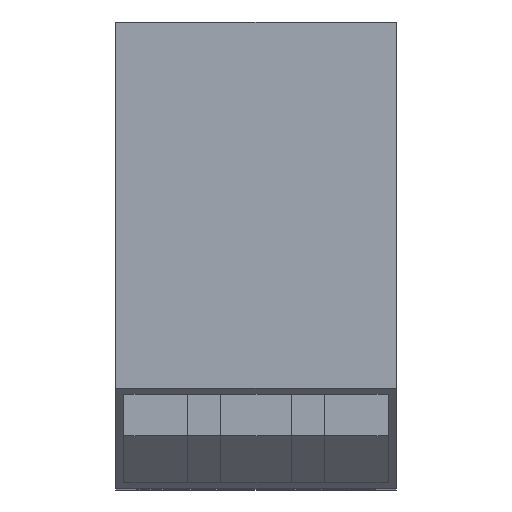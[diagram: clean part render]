
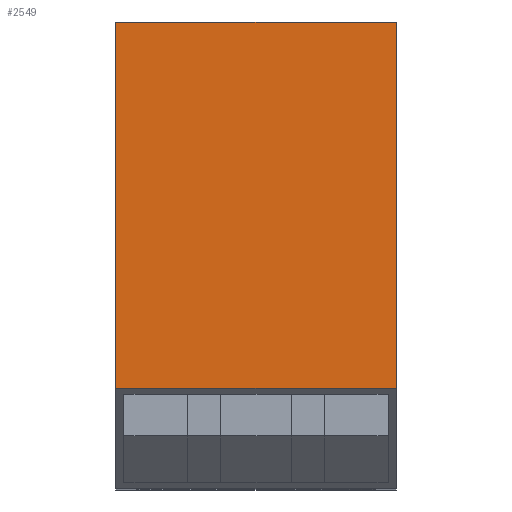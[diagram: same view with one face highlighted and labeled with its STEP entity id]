
A CAD part, top view. The second image highlights one B-rep face of the part: STEP entity #2549.
In plain terms, the highlighted planar face has unit normal (0, 0, 1).
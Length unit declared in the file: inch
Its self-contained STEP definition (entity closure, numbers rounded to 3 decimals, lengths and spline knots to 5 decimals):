
#32 = LINE ( 'NONE', #33, #34 ) ;
#33 = CARTESIAN_POINT ( 'NONE',  ( 4.2517, 4.05174, 0.3059 ) ) ;
#34 = VECTOR ( 'NONE', #37, 39.37008 ) ;
#37 = DIRECTION ( 'NONE',  ( -1., 0., 0. ) ) ;
#985 = ORIENTED_EDGE ( 'NONE', *, *, #1804, .T. ) ;
#1004 = EDGE_CURVE ( 'NONE', #3185, #1591, #2547, .T. ) ;
#1028 = ORIENTED_EDGE ( 'NONE', *, *, #1004, .T. ) ;
#1060 = ORIENTED_EDGE ( 'NONE', *, *, #2923, .T. ) ;
#1063 = EDGE_CURVE ( 'NONE', #3284, #1152, #3004, .T. ) ;
#1108 = ORIENTED_EDGE ( 'NONE', *, *, #1063, .T. ) ;
#1152 = VERTEX_POINT ( 'NONE', #2133 ) ;
#1591 = VERTEX_POINT ( 'NONE', #3115 ) ;
#1772 = CARTESIAN_POINT ( 'NONE',  ( 4.7267, 3.43174, 0.3059 ) ) ;
#1804 = EDGE_CURVE ( 'NONE', #1591, #3284, #32, .T. ) ;
#2133 = CARTESIAN_POINT ( 'NONE',  ( 4.2517, 3.43174, 0.3059 ) ) ;
#2391 = FACE_OUTER_BOUND ( 'NONE', #2425, .T. ) ;
#2392 = PLANE ( 'NONE',  #2393 ) ;
#2393 = AXIS2_PLACEMENT_3D ( 'NONE', #2394, #2395, #2396 ) ;
#2394 = CARTESIAN_POINT ( 'NONE',  ( 4.2517, 3.43174, 0.3059 ) ) ;
#2395 = DIRECTION ( 'NONE',  ( 0., 0., 1. ) ) ;
#2396 = DIRECTION ( 'NONE',  ( 0., -1., 0. ) ) ;
#2425 = EDGE_LOOP ( 'NONE', ( #1108, #1060, #1028, #985 ) ) ;
#2547 = LINE ( 'NONE', #2548, #2552 ) ;
#2548 = CARTESIAN_POINT ( 'NONE',  ( 4.7267, 3.66808, 0.3059 ) ) ;
#2549 = ADVANCED_FACE ( 'NONE', ( #2391 ), #2392, .T. ) ;
#2552 = VECTOR ( 'NONE', #2553, 39.37008 ) ;
#2553 = DIRECTION ( 'NONE',  ( 0., 1., 0. ) ) ;
#2648 = LINE ( 'NONE', #2649, #2650 ) ;
#2649 = CARTESIAN_POINT ( 'NONE',  ( 4.2517, 3.43174, 0.3059 ) ) ;
#2650 = VECTOR ( 'NONE', #2651, 39.37008 ) ;
#2651 = DIRECTION ( 'NONE',  ( 1., 0., 0. ) ) ;
#2890 = CARTESIAN_POINT ( 'NONE',  ( 4.2517, 4.05174, 0.3059 ) ) ;
#2923 = EDGE_CURVE ( 'NONE', #1152, #3185, #2648, .T. ) ;
#3004 = LINE ( 'NONE', #3005, #3006 ) ;
#3005 = CARTESIAN_POINT ( 'NONE',  ( 4.2517, 3.43174, 0.3059 ) ) ;
#3006 = VECTOR ( 'NONE', #3007, 39.37008 ) ;
#3007 = DIRECTION ( 'NONE',  ( 0., -1., 0. ) ) ;
#3115 = CARTESIAN_POINT ( 'NONE',  ( 4.7267, 4.05174, 0.3059 ) ) ;
#3185 = VERTEX_POINT ( 'NONE', #1772 ) ;
#3284 = VERTEX_POINT ( 'NONE', #2890 ) ;
